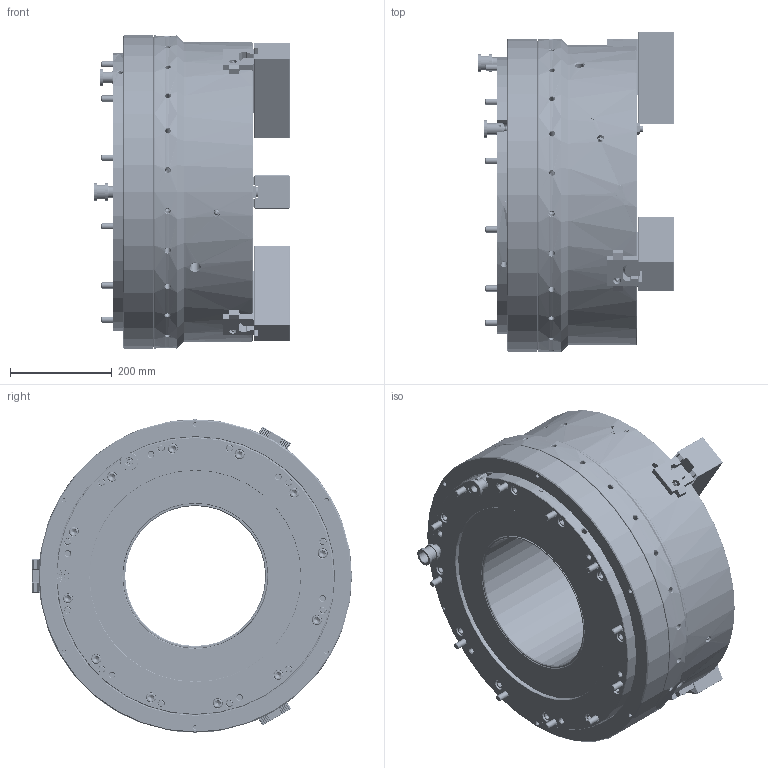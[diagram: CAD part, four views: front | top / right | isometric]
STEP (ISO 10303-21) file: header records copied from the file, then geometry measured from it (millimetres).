
FILE_DESCRIPTION (( 'STEP AP214' ), '1' );
FILE_NAME ('UPR600A275_UC.STEP', '2025-10-23T03:11:50', ( '' ), ( '' ), 'SwSTEP 2.0', 'SolidWorks 2022', '' );
FILE_SCHEMA (( 'AUTOMOTIVE_DESIGN' ));
Length unit declared in the file: millimetre
Products named in the file (5): UPR600A275_UC; Copy of 61P372874^UPR600A275_VIEW; Part3^UPR600A275_VIEW; Copy of 61P493019^UPR600A275_VIEW; Copy of 0030120050^UPR600A275_VIEW
Assembly tree (16 placements, depth 2):
  UPR600A275_UC
    Copy of 61P372874^UPR600A275_VIEW  x3
    Copy of 61P493019^UPR600A275_VIEW  x6
    Copy of 0030120050^UPR600A275_VIEW  x6
    Part3^UPR600A275_VIEW
Bounding box: 383.71 x 627.5 x 615 mm (x, y, z)
Volume: 61295732.7 mm3; surface area: 2659948.7 mm2
Topology: 17 solids, 24 shells, 9068 faces, 24847 edges, 16192 vertices
Faces by surface type: plane 4621, cylinder 2258, bspline 1117, cone 934, torus 126, sphere 12
Entity records: 269567 total; most frequent: CARTESIAN_POINT 99843, ORIENTED_EDGE 38626, DIRECTION 29010, EDGE_CURVE 19313, VERTEX_POINT 12637, VECTOR 12114, LINE 12114, AXIS2_PLACEMENT_3D 8448
